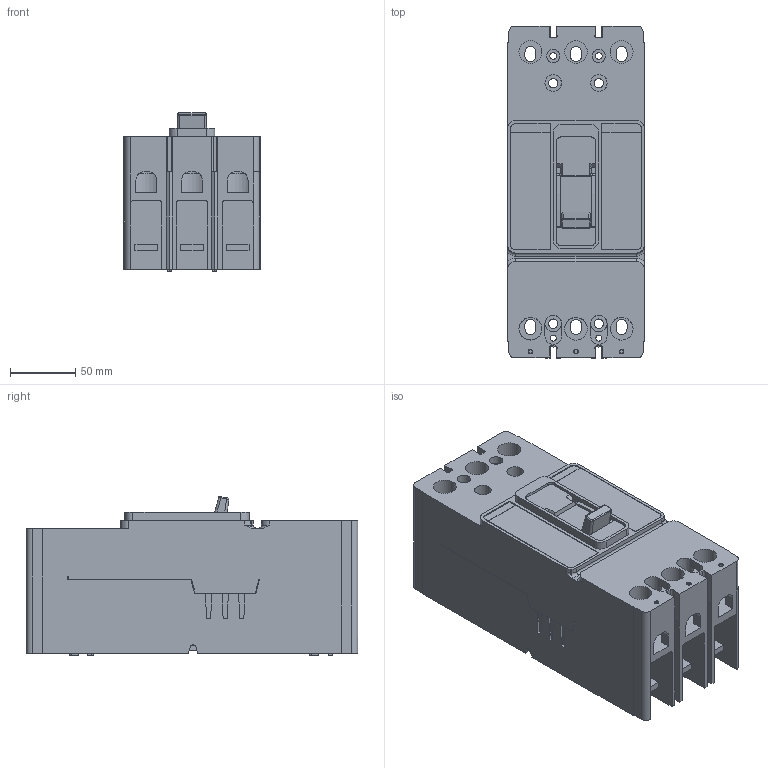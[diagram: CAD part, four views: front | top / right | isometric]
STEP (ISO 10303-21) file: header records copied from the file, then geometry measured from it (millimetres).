
FILE_DESCRIPTION((''),'2;1');
FILE_NAME('C:\temp\JDC2_.stp','2015-10-23T10:39:29',('E0021360'),(''),'Autodesk Inventor 2013','Autodesk Inventor 2013','');
FILE_SCHEMA(('AUTOMOTIVE_DESIGN { 1 0 10303 214 1 1 1 1 }'));
Length unit declared in the file: inch
Products named in the file (1): JDC2_
Bounding box: 104.78 x 254 x 121.44 mm (x, y, z)
Volume: 2168108.2 mm3; surface area: 227184.6 mm2
Topology: 1 solids, 10 shells, 892 faces, 2457 edges, 1621 vertices
Faces by surface type: plane 675, cylinder 203, cone 6, bspline 4, torus 4
Full cylindrical faces by diameter (mm): 2.794 x3, 3.556 x3, 4.572 x2, 5.08 x2, 5.156 x3, 5.309 x4, 5.563 x4, 6.35 x7, 6.756 x3, 7.137 x4, 7.925 x6, 8.077 x2, 10.033 x2, 10.16 x3, 12.7 x6, 17.475 x10, 21.59 x2
Entity records: 28808 total; most frequent: CARTESIAN_POINT 5177, ORIENTED_EDGE 4696, DIRECTION 4598, EDGE_CURVE 2348, VECTOR 1796, LINE 1796, VERTEX_POINT 1584, AXIS2_PLACEMENT_3D 1401
